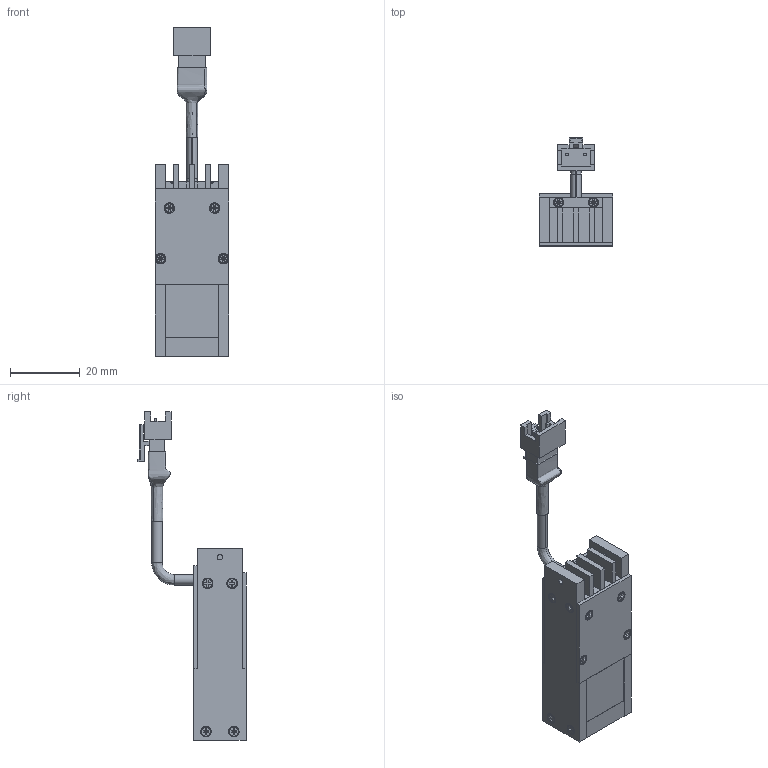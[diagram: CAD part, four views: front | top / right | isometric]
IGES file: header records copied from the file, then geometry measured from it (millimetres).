
Start section: SolidWorks IGES file using analytic representation for surfaces
Global section: file name: C:\Users\user\AppData\Local\Temp\tmp71pww_zi\VCOBS-1513_Drawing_L1407A-A00100.SLDPRT.IGS; native system: SolidWorks 2018; preprocessor: SolidWorks 2018; author: user; date: 241205.165035; units: millimetre
Bounding box: 21 x 30.98 x 94.2 mm (x, y, z)
Surface area: 8878.1 mm2 (no closed solid volume)
Topology: 0 solids, 0 shells, 436 faces, 3847 edges, 3845 vertices
Faces by surface type: bspline 351, revolution 85
